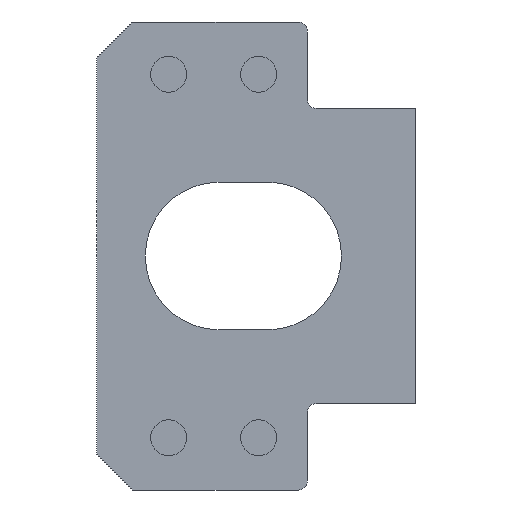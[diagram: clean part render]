
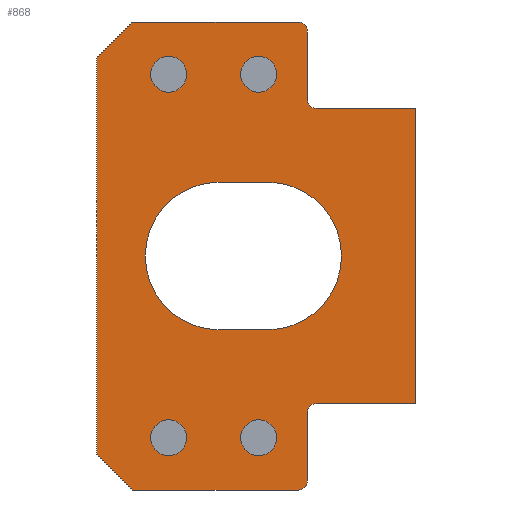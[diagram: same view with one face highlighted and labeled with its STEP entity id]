
A CAD part, front view. The second image highlights one B-rep face of the part: STEP entity #868.
In plain terms, the highlighted planar face has unit normal (0, -1, 0).
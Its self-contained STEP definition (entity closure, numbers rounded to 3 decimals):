
#105=CARTESIAN_POINT('',(-1.7,0.,0.));
#106=DIRECTION('',(0.,1.,0.));
#107=DIRECTION('',(0.,0.,-1.));
#108=AXIS2_PLACEMENT_3D('',#105,#106,#107);
#110=DIRECTION('',(-1.,0.,0.));
#111=VECTOR('',#110,2.7);
#112=CARTESIAN_POINT('',(1.,0.,-4.1));
#113=LINE('',#112,#111);
#114=CARTESIAN_POINT('',(1.,0.,0.));
#115=DIRECTION('',(0.,1.,0.));
#116=DIRECTION('',(0.,0.,1.));
#117=AXIS2_PLACEMENT_3D('',#114,#115,#116);
#119=DIRECTION('',(1.,0.,0.));
#120=VECTOR('',#119,2.7);
#121=CARTESIAN_POINT('',(-1.7,0.,4.1));
#122=LINE('',#121,#120);
#123=CARTESIAN_POINT('',(-4.5,0.,-10.1));
#124=DIRECTION('',(0.,-1.,0.));
#125=DIRECTION('',(0.,0.,1.));
#126=AXIS2_PLACEMENT_3D('',#123,#124,#125);
#128=CARTESIAN_POINT('',(-4.5,0.,-10.1));
#129=DIRECTION('',(0.,-1.,0.));
#130=DIRECTION('',(0.,0.,-1.));
#131=AXIS2_PLACEMENT_3D('',#128,#129,#130);
#133=CARTESIAN_POINT('',(0.5,0.,-10.1));
#134=DIRECTION('',(0.,-1.,0.));
#135=DIRECTION('',(0.,0.,1.));
#136=AXIS2_PLACEMENT_3D('',#133,#134,#135);
#138=CARTESIAN_POINT('',(0.5,0.,-10.1));
#139=DIRECTION('',(0.,-1.,0.));
#140=DIRECTION('',(0.,0.,-1.));
#141=AXIS2_PLACEMENT_3D('',#138,#139,#140);
#143=CARTESIAN_POINT('',(-4.5,0.,10.1));
#144=DIRECTION('',(0.,-1.,0.));
#145=DIRECTION('',(0.,0.,1.));
#146=AXIS2_PLACEMENT_3D('',#143,#144,#145);
#148=CARTESIAN_POINT('',(-4.5,0.,10.1));
#149=DIRECTION('',(0.,-1.,0.));
#150=DIRECTION('',(0.,0.,-1.));
#151=AXIS2_PLACEMENT_3D('',#148,#149,#150);
#153=CARTESIAN_POINT('',(0.5,0.,10.1));
#154=DIRECTION('',(0.,-1.,0.));
#155=DIRECTION('',(0.,0.,1.));
#156=AXIS2_PLACEMENT_3D('',#153,#154,#155);
#158=CARTESIAN_POINT('',(0.5,0.,10.1));
#159=DIRECTION('',(0.,-1.,0.));
#160=DIRECTION('',(0.,0.,-1.));
#161=AXIS2_PLACEMENT_3D('',#158,#159,#160);
#163=CARTESIAN_POINT('',(2.7,0.,-12.5));
#164=DIRECTION('',(0.,-1.,0.));
#165=DIRECTION('',(0.,0.,-1.));
#166=AXIS2_PLACEMENT_3D('',#163,#164,#165);
#168=DIRECTION('',(-1.,0.,0.));
#169=VECTOR('',#168,9.2);
#170=CARTESIAN_POINT('',(2.7,0.,-13.));
#171=LINE('',#170,#169);
#172=DIRECTION('',(0.707,0.,-0.707));
#173=VECTOR('',#172,2.828);
#174=CARTESIAN_POINT('',(-8.5,0.,-11.));
#175=LINE('',#174,#173);
#176=DIRECTION('',(0.,0.,1.));
#177=VECTOR('',#176,22.);
#178=CARTESIAN_POINT('',(-8.5,0.,-11.));
#179=LINE('',#178,#177);
#180=DIRECTION('',(-0.707,0.,-0.707));
#181=VECTOR('',#180,2.828);
#182=CARTESIAN_POINT('',(-6.5,0.,13.));
#183=LINE('',#182,#181);
#184=DIRECTION('',(1.,0.,0.));
#185=VECTOR('',#184,9.2);
#186=CARTESIAN_POINT('',(-6.5,0.,13.));
#187=LINE('',#186,#185);
#188=CARTESIAN_POINT('',(2.7,0.,12.5));
#189=DIRECTION('',(0.,-1.,0.));
#190=DIRECTION('',(1.,0.,0.));
#191=AXIS2_PLACEMENT_3D('',#188,#189,#190);
#193=DIRECTION('',(0.,0.,-1.));
#194=VECTOR('',#193,3.8);
#195=CARTESIAN_POINT('',(3.2,0.,12.5));
#196=LINE('',#195,#194);
#197=DIRECTION('',(0.,0.,-1.));
#198=VECTOR('',#197,3.8);
#199=CARTESIAN_POINT('',(3.2,0.,-8.7));
#200=LINE('',#199,#198);
#290=CARTESIAN_POINT('',(3.7,0.,-8.7));
#291=DIRECTION('',(0.,1.,0.));
#292=DIRECTION('',(-1.,0.,0.));
#293=AXIS2_PLACEMENT_3D('',#290,#291,#292);
#299=DIRECTION('',(1.,0.,0.));
#300=VECTOR('',#299,5.5);
#301=CARTESIAN_POINT('',(3.7,0.,-8.2));
#302=LINE('',#301,#300);
#315=DIRECTION('',(0.,0.,1.));
#316=VECTOR('',#315,16.4);
#317=CARTESIAN_POINT('',(9.2,0.,-8.2));
#318=LINE('',#317,#316);
#327=DIRECTION('',(-1.,0.,0.));
#328=VECTOR('',#327,5.5);
#329=CARTESIAN_POINT('',(9.2,0.,8.2));
#330=LINE('',#329,#328);
#336=CARTESIAN_POINT('',(3.7,0.,8.7));
#337=DIRECTION('',(0.,1.,0.));
#338=DIRECTION('',(0.,0.,-1.));
#339=AXIS2_PLACEMENT_3D('',#336,#337,#338);
#533=CARTESIAN_POINT('',(-1.7,0.,-4.1));
#534=CARTESIAN_POINT('',(-1.7,0.,4.1));
#535=VERTEX_POINT('',#533);
#536=VERTEX_POINT('',#534);
#537=CARTESIAN_POINT('',(1.,0.,4.1));
#538=VERTEX_POINT('',#537);
#539=CARTESIAN_POINT('',(1.,0.,-4.1));
#540=VERTEX_POINT('',#539);
#557=CARTESIAN_POINT('',(-4.5,0.,-9.1));
#558=CARTESIAN_POINT('',(-4.5,0.,-11.1));
#559=VERTEX_POINT('',#557);
#560=VERTEX_POINT('',#558);
#561=CARTESIAN_POINT('',(0.5,0.,-9.1));
#562=CARTESIAN_POINT('',(0.5,0.,-11.1));
#563=VERTEX_POINT('',#561);
#564=VERTEX_POINT('',#562);
#565=CARTESIAN_POINT('',(-4.5,0.,11.1));
#566=CARTESIAN_POINT('',(-4.5,0.,9.1));
#567=VERTEX_POINT('',#565);
#568=VERTEX_POINT('',#566);
#569=CARTESIAN_POINT('',(0.5,0.,11.1));
#570=CARTESIAN_POINT('',(0.5,0.,9.1));
#571=VERTEX_POINT('',#569);
#572=VERTEX_POINT('',#570);
#574=CARTESIAN_POINT('',(3.7,0.,-8.2));
#576=VERTEX_POINT('',#574);
#578=CARTESIAN_POINT('',(3.2,0.,-8.7));
#580=VERTEX_POINT('',#578);
#582=CARTESIAN_POINT('',(3.2,0.,8.7));
#584=VERTEX_POINT('',#582);
#586=CARTESIAN_POINT('',(3.7,0.,8.2));
#588=VERTEX_POINT('',#586);
#637=CARTESIAN_POINT('',(-6.5,0.,13.));
#638=CARTESIAN_POINT('',(-8.5,0.,11.));
#639=VERTEX_POINT('',#637);
#640=VERTEX_POINT('',#638);
#645=CARTESIAN_POINT('',(-8.5,0.,-11.));
#646=CARTESIAN_POINT('',(-6.5,0.,-13.));
#647=VERTEX_POINT('',#645);
#648=VERTEX_POINT('',#646);
#653=CARTESIAN_POINT('',(2.7,0.,-13.));
#654=CARTESIAN_POINT('',(3.2,0.,-12.5));
#655=VERTEX_POINT('',#653);
#656=VERTEX_POINT('',#654);
#661=CARTESIAN_POINT('',(3.2,0.,12.5));
#662=CARTESIAN_POINT('',(2.7,0.,13.));
#663=VERTEX_POINT('',#661);
#664=VERTEX_POINT('',#662);
#671=CARTESIAN_POINT('',(9.2,0.,8.2));
#672=VERTEX_POINT('',#671);
#673=CARTESIAN_POINT('',(9.2,0.,-8.2));
#674=VERTEX_POINT('',#673);
#803=CARTESIAN_POINT('',(-10.27,0.,-9.5));
#804=DIRECTION('',(0.,1.,0.));
#805=DIRECTION('',(0.,0.,1.));
#806=AXIS2_PLACEMENT_3D('',#803,#804,#805);
#807=PLANE('',#806);
#809=ORIENTED_EDGE('',*,*,#808,.F.);
#811=ORIENTED_EDGE('',*,*,#810,.T.);
#813=ORIENTED_EDGE('',*,*,#812,.F.);
#815=ORIENTED_EDGE('',*,*,#814,.T.);
#817=ORIENTED_EDGE('',*,*,#816,.F.);
#819=ORIENTED_EDGE('',*,*,#818,.T.);
#821=ORIENTED_EDGE('',*,*,#820,.F.);
#823=ORIENTED_EDGE('',*,*,#822,.T.);
#825=ORIENTED_EDGE('',*,*,#824,.F.);
#827=ORIENTED_EDGE('',*,*,#826,.F.);
#829=ORIENTED_EDGE('',*,*,#828,.F.);
#831=ORIENTED_EDGE('',*,*,#830,.F.);
#833=ORIENTED_EDGE('',*,*,#832,.F.);
#835=ORIENTED_EDGE('',*,*,#834,.T.);
#836=EDGE_LOOP('',(#809,#811,#813,#815,#817,#819,#821,#823,#825,#827,#829,#831,
#833,#835));
#837=FACE_OUTER_BOUND('',#836,.F.);
#839=ORIENTED_EDGE('',*,*,#838,.T.);
#841=ORIENTED_EDGE('',*,*,#840,.T.);
#842=EDGE_LOOP('',(#839,#841));
#843=FACE_BOUND('',#842,.F.);
#845=ORIENTED_EDGE('',*,*,#844,.T.);
#847=ORIENTED_EDGE('',*,*,#846,.T.);
#848=EDGE_LOOP('',(#845,#847));
#849=FACE_BOUND('',#848,.F.);
#851=ORIENTED_EDGE('',*,*,#850,.T.);
#853=ORIENTED_EDGE('',*,*,#852,.T.);
#854=EDGE_LOOP('',(#851,#853));
#855=FACE_BOUND('',#854,.F.);
#857=ORIENTED_EDGE('',*,*,#856,.T.);
#859=ORIENTED_EDGE('',*,*,#858,.T.);
#860=EDGE_LOOP('',(#857,#859));
#861=FACE_BOUND('',#860,.F.);
#862=ORIENTED_EDGE('',*,*,#755,.F.);
#863=ORIENTED_EDGE('',*,*,#770,.F.);
#864=ORIENTED_EDGE('',*,*,#784,.F.);
#865=ORIENTED_EDGE('',*,*,#797,.F.);
#866=EDGE_LOOP('',(#862,#863,#864,#865));
#867=FACE_BOUND('',#866,.F.);
#868=ADVANCED_FACE('',(#837,#843,#849,#855,#861,#867),#807,.F.);
#109=CIRCLE('',#108,4.1);
#118=CIRCLE('',#117,4.1);
#127=CIRCLE('',#126,1.);
#132=CIRCLE('',#131,1.);
#137=CIRCLE('',#136,1.);
#142=CIRCLE('',#141,1.);
#147=CIRCLE('',#146,1.);
#152=CIRCLE('',#151,1.);
#157=CIRCLE('',#156,1.);
#162=CIRCLE('',#161,1.);
#167=CIRCLE('',#166,0.5);
#192=CIRCLE('',#191,0.5);
#294=CIRCLE('',#293,0.5);
#340=CIRCLE('',#339,0.5);
#755=EDGE_CURVE('',#535,#536,#109,.T.);
#770=EDGE_CURVE('',#540,#535,#113,.T.);
#784=EDGE_CURVE('',#538,#540,#118,.T.);
#797=EDGE_CURVE('',#536,#538,#122,.T.);
#808=EDGE_CURVE('',#655,#656,#167,.T.);
#810=EDGE_CURVE('',#655,#648,#171,.T.);
#812=EDGE_CURVE('',#647,#648,#175,.T.);
#814=EDGE_CURVE('',#647,#640,#179,.T.);
#816=EDGE_CURVE('',#639,#640,#183,.T.);
#818=EDGE_CURVE('',#639,#664,#187,.T.);
#820=EDGE_CURVE('',#663,#664,#192,.T.);
#822=EDGE_CURVE('',#663,#584,#196,.T.);
#824=EDGE_CURVE('',#588,#584,#340,.T.);
#826=EDGE_CURVE('',#672,#588,#330,.T.);
#828=EDGE_CURVE('',#674,#672,#318,.T.);
#830=EDGE_CURVE('',#576,#674,#302,.T.);
#832=EDGE_CURVE('',#580,#576,#294,.T.);
#834=EDGE_CURVE('',#580,#656,#200,.T.);
#838=EDGE_CURVE('',#559,#560,#127,.T.);
#840=EDGE_CURVE('',#560,#559,#132,.T.);
#844=EDGE_CURVE('',#563,#564,#137,.T.);
#846=EDGE_CURVE('',#564,#563,#142,.T.);
#850=EDGE_CURVE('',#567,#568,#147,.T.);
#852=EDGE_CURVE('',#568,#567,#152,.T.);
#856=EDGE_CURVE('',#571,#572,#157,.T.);
#858=EDGE_CURVE('',#572,#571,#162,.T.);
